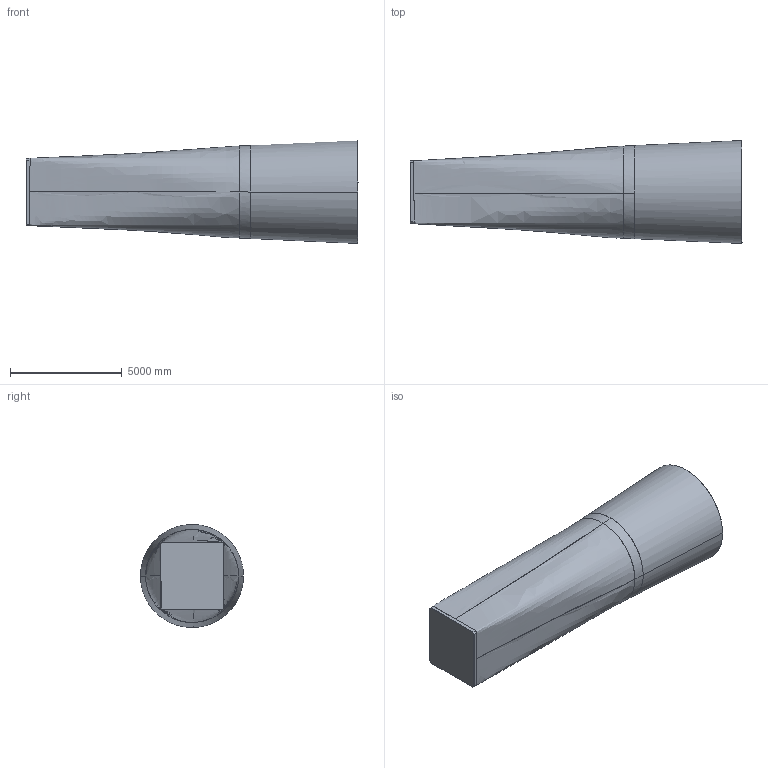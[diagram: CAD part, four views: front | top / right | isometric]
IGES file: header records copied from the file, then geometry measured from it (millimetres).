
Global section: file name: Z:\prj2.1\wind_tunnels\NTF\outgoing\NTF_Rumsey_October_2023\NTF_Diffusor_2023_10_02.igs; native system: NX V12.0; preprocessor: SIEMENS PLM Software NX 12.0; date: 20231003.101925; units: inch
Bounding box: 14829.01 x 4596.02 x 4594.4 mm (x, y, z)
Surface area: 212786570 mm2 (no closed solid volume)
Topology: 0 solids, 0 shells, 30 faces, 255 edges, 255 vertices
Faces by surface type: bspline 30
